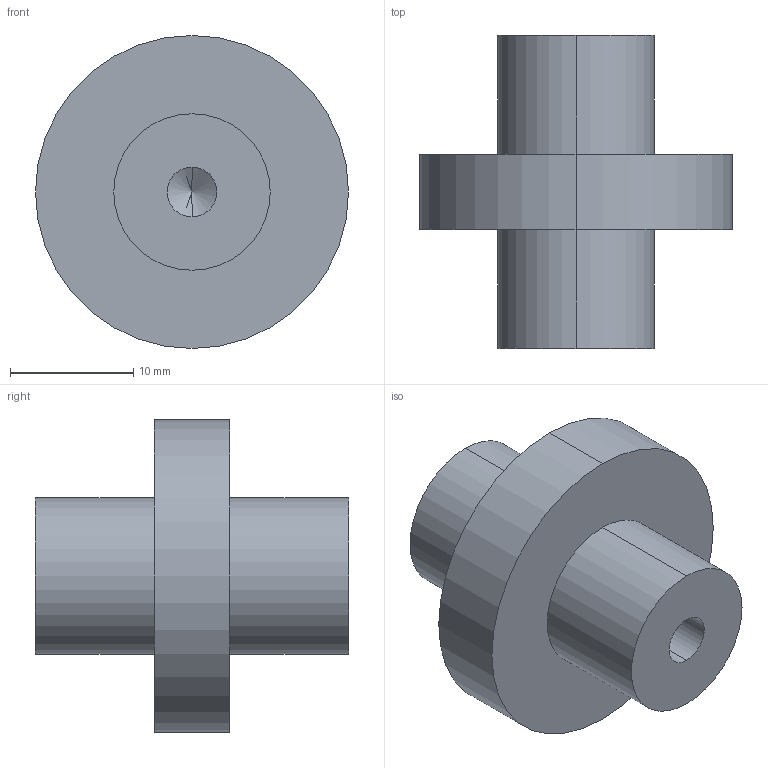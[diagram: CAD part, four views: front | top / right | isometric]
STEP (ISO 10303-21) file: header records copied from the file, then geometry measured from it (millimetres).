
FILE_DESCRIPTION (( 'STEP AP214' ), '1' );
FILE_NAME ('SS1432-100KG-F-F.STEP', '2024-09-04T16:06:53', ( '' ), ( '' ), 'SwSTEP 2.0', 'SolidWorks 2008', '' );
FILE_SCHEMA (( 'AUTOMOTIVE_DESIGN' ));
Length unit declared in the file: inch
Products named in the file (1): SS1432-100KG-F-F
Bounding box: 25.4 x 25.4 x 25.4 mm (x, y, z)
Volume: 5276.6 mm3; surface area: 2519.2 mm2
Topology: 1 solids, 1 shells, 18 faces, 38 edges, 22 vertices
Faces by surface type: cylinder 10, cone 4, plane 4
Entity records: 541 total; most frequent: DIRECTION 92, CARTESIAN_POINT 75, ORIENTED_EDGE 68, AXIS2_PLACEMENT_3D 39, EDGE_CURVE 34, VERTEX_POINT 22, EDGE_LOOP 22, CIRCLE 20
